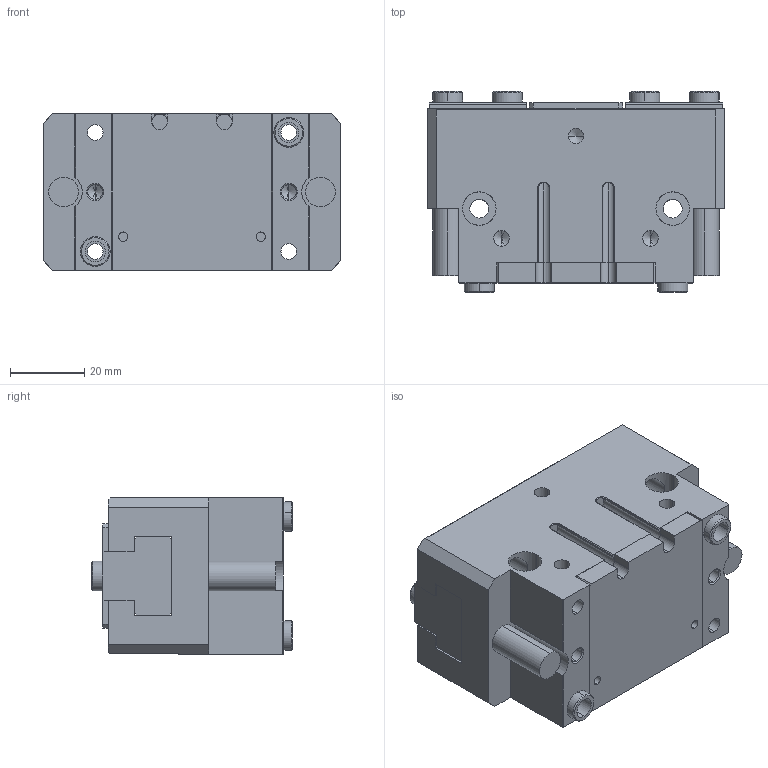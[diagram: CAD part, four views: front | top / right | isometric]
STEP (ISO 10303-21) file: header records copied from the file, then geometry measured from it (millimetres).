
FILE_DESCRIPTION (( 'STEP AP203' ), '1' );
FILE_NAME ('OPP-80-C1-原始檔-組合-W106.04.20.STEP', '2017-04-19T09:13:25', ( 'DanyaoCAD' ), ( '' ), 'SwSTEP 2.0', 'SolidWorks 2016', '' );
FILE_SCHEMA (( 'CONFIG_CONTROL_DESIGN' ));
Length unit declared in the file: millimetre
Products named in the file (6): Boccola; Griffa; Fondello; Coperchio; OPP-80-C1-原始檔-組合-W106.04.20; Corpo
Assembly tree (11 placements, depth 2):
  OPP-80-C1-原始檔-組合-W106.04.20
    Corpo
    Boccola  x6
    Griffa  x2
    Fondello
    Coperchio
Bounding box: 80 x 54 x 42 mm (x, y, z)
Volume: 133805.9 mm3; surface area: 43049.7 mm2
Topology: 11 solids, 11 shells, 1138 faces, 3120 edges, 2042 vertices
Faces by surface type: bspline 640, plane 302, cylinder 126, cone 70
Entity records: 50951 total; most frequent: CARTESIAN_POINT 27584, ORIENTED_EDGE 5796, EDGE_CURVE 2898, DIRECTION 2646, VERTEX_POINT 1924, LINE 1370, VECTOR 1370, B_SPLINE_CURVE_WITH_KNOTS 1315
